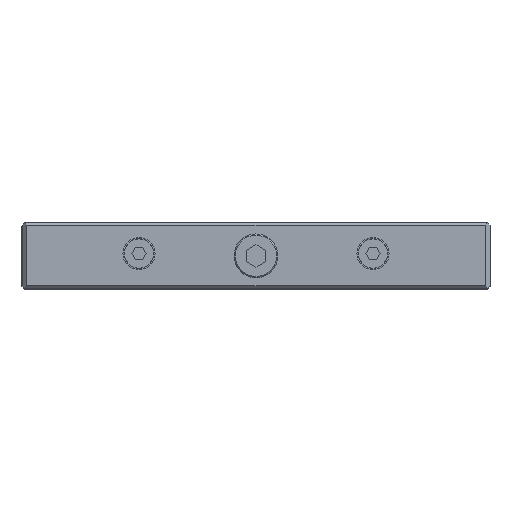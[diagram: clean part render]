
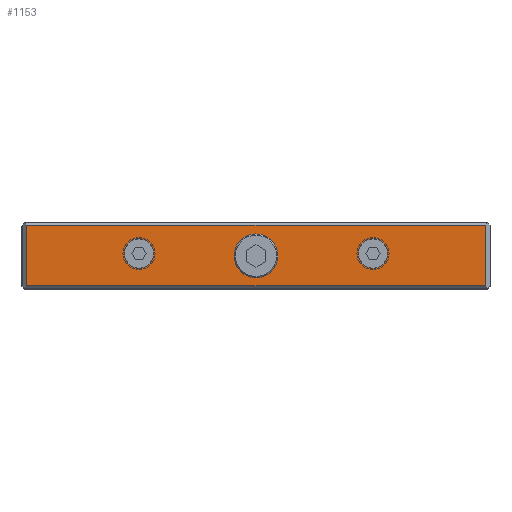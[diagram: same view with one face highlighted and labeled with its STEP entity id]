
A CAD part, top view. The second image highlights one B-rep face of the part: STEP entity #1153.
In plain terms, the highlighted planar face has unit normal (0, 0, 1).
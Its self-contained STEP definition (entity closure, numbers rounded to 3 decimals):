
#98 = EDGE_LOOP ( 'NONE', ( #3366, #3050 ) ) ;
#136 = EDGE_LOOP ( 'NONE', ( #3068, #3151, #3010, #3218 ) ) ;
#271 = EDGE_LOOP ( 'NONE', ( #3167, #2909 ) ) ;
#285 = EDGE_LOOP ( 'NONE', ( #3289, #3083 ) ) ;
#394 = CARTESIAN_POINT ( 'NONE',  ( 94., 26., 123. ) ) ;
#475 = CARTESIAN_POINT ( 'NONE',  ( -94., 1., 123. ) ) ;
#526 = CARTESIAN_POINT ( 'NONE',  ( -94., 26., 123. ) ) ;
#1153 = ADVANCED_FACE ( 'NONE', ( #5316, #5315, #5321, #5357 ), #5290, .F. ) ;
#1319 = CARTESIAN_POINT ( 'NONE',  ( -42., 14.3, 123. ) ) ;
#1419 = CARTESIAN_POINT ( 'NONE',  ( 54., 14.3, 123. ) ) ;
#1431 = CARTESIAN_POINT ( 'NONE',  ( -9.007, 13.347, 123. ) ) ;
#1465 = CARTESIAN_POINT ( 'NONE',  ( -54., 14.3, 123. ) ) ;
#1466 = CARTESIAN_POINT ( 'NONE',  ( 42., 14.3, 123. ) ) ;
#1494 = CARTESIAN_POINT ( 'NONE',  ( 8.993, 13.347, 123. ) ) ;
#2068 = CARTESIAN_POINT ( 'NONE',  ( 94., 1., 123. ) ) ;
#2108 = EDGE_CURVE ( 'NONE', #2758, #2885, #2548, .T. ) ;
#2114 = EDGE_CURVE ( 'NONE', #2709, #2613, #2561, .T. ) ;
#2416 = AXIS2_PLACEMENT_3D ( 'NONE', #5292, #5439, #5291 ) ;
#2546 = AXIS2_PLACEMENT_3D ( 'NONE', #7099, #7119, #7140 ) ;
#2548 = CIRCLE ( 'NONE', #2546, 9. ) ;
#2561 = CIRCLE ( 'NONE', #2563, 6. ) ;
#2563 = AXIS2_PLACEMENT_3D ( 'NONE', #7055, #7054, #7251 ) ;
#2613 = VERTEX_POINT ( 'NONE', #1419 ) ;
#2635 = VERTEX_POINT ( 'NONE', #1319 ) ;
#2709 = VERTEX_POINT ( 'NONE', #1466 ) ;
#2758 = VERTEX_POINT ( 'NONE', #1431 ) ;
#2881 = VERTEX_POINT ( 'NONE', #1465 ) ;
#2885 = VERTEX_POINT ( 'NONE', #1494 ) ;
#2909 = ORIENTED_EDGE ( 'NONE', *, *, #2108, .F. ) ;
#3010 = ORIENTED_EDGE ( 'NONE', *, *, #6699, .T. ) ;
#3050 = ORIENTED_EDGE ( 'NONE', *, *, #2114, .F. ) ;
#3068 = ORIENTED_EDGE ( 'NONE', *, *, #6773, .T. ) ;
#3083 = ORIENTED_EDGE ( 'NONE', *, *, #5092, .F. ) ;
#3151 = ORIENTED_EDGE ( 'NONE', *, *, #5190, .T. ) ;
#3167 = ORIENTED_EDGE ( 'NONE', *, *, #5191, .F. ) ;
#3218 = ORIENTED_EDGE ( 'NONE', *, *, #6701, .T. ) ;
#3289 = ORIENTED_EDGE ( 'NONE', *, *, #6789, .F. ) ;
#3366 = ORIENTED_EDGE ( 'NONE', *, *, #6854, .F. ) ;
#3540 = VERTEX_POINT ( 'NONE', #2068 ) ;
#3558 = VERTEX_POINT ( 'NONE', #526 ) ;
#3572 = VERTEX_POINT ( 'NONE', #475 ) ;
#3581 = VERTEX_POINT ( 'NONE', #394 ) ;
#4226 = CIRCLE ( 'NONE', #4229, 6. ) ;
#4229 = AXIS2_PLACEMENT_3D ( 'NONE', #8063, #8064, #8065 ) ;
#4414 = CIRCLE ( 'NONE', #4431, 9. ) ;
#4428 = VECTOR ( 'NONE', #5757, 1000. ) ;
#4431 = AXIS2_PLACEMENT_3D ( 'NONE', #5760, #5761, #5762 ) ;
#4473 = VECTOR ( 'NONE', #5916, 1000. ) ;
#4475 = VECTOR ( 'NONE', #5911, 1000. ) ;
#4491 = AXIS2_PLACEMENT_3D ( 'NONE', #6520, #6521, #6522 ) ;
#5092 = EDGE_CURVE ( 'NONE', #2881, #2635, #4226, .T. ) ;
#5190 = EDGE_CURVE ( 'NONE', #3572, #3540, #5754, .T. ) ;
#5191 = EDGE_CURVE ( 'NONE', #2885, #2758, #4414, .T. ) ;
#5290 = PLANE ( 'NONE',  #2416 ) ;
#5291 = DIRECTION ( 'NONE',  ( -1., 0., 0. ) ) ;
#5292 = CARTESIAN_POINT ( 'NONE',  ( -96., 27., 123. ) ) ;
#5315 = FACE_BOUND ( 'NONE', #98, .T. ) ;
#5316 = FACE_BOUND ( 'NONE', #271, .T. ) ;
#5321 = FACE_BOUND ( 'NONE', #285, .T. ) ;
#5357 = FACE_OUTER_BOUND ( 'NONE', #136, .T. ) ;
#5439 = DIRECTION ( 'NONE',  ( 0., 0., -1. ) ) ;
#5754 = LINE ( 'NONE', #5756, #4428 ) ;
#5756 = CARTESIAN_POINT ( 'NONE',  ( -96., 1., 123. ) ) ;
#5757 = DIRECTION ( 'NONE',  ( 1., 0., 0. ) ) ;
#5760 = CARTESIAN_POINT ( 'NONE',  ( -0.007, 13.347, 123. ) ) ;
#5761 = DIRECTION ( 'NONE',  ( 0., 0., 1. ) ) ;
#5762 = DIRECTION ( 'NONE',  ( 1., 0., 0. ) ) ;
#5902 = CARTESIAN_POINT ( 'NONE',  ( 94., 27., 123. ) ) ;
#5903 = LINE ( 'NONE', #5902, #4475 ) ;
#5907 = CARTESIAN_POINT ( 'NONE',  ( -94., 26., 123. ) ) ;
#5911 = DIRECTION ( 'NONE',  ( 0., 1., 0. ) ) ;
#5912 = LINE ( 'NONE', #5907, #4473 ) ;
#5916 = DIRECTION ( 'NONE',  ( -1., 0., 0. ) ) ;
#6224 = LINE ( 'NONE', #6225, #7335 ) ;
#6225 = CARTESIAN_POINT ( 'NONE',  ( -94., 27., 123. ) ) ;
#6226 = DIRECTION ( 'NONE',  ( 0., -1., 0. ) ) ;
#6290 = CARTESIAN_POINT ( 'NONE',  ( -48., 14.3, 123. ) ) ;
#6291 = DIRECTION ( 'NONE',  ( 0., 0., 1. ) ) ;
#6292 = DIRECTION ( 'NONE',  ( 1., 0., 0. ) ) ;
#6520 = CARTESIAN_POINT ( 'NONE',  ( 48., 14.3, 123. ) ) ;
#6521 = DIRECTION ( 'NONE',  ( 0., 0., 1. ) ) ;
#6522 = DIRECTION ( 'NONE',  ( 1., 0., 0. ) ) ;
#6699 = EDGE_CURVE ( 'NONE', #3540, #3581, #5903, .T. ) ;
#6701 = EDGE_CURVE ( 'NONE', #3581, #3558, #5912, .T. ) ;
#6773 = EDGE_CURVE ( 'NONE', #3558, #3572, #6224, .T. ) ;
#6789 = EDGE_CURVE ( 'NONE', #2635, #2881, #7355, .T. ) ;
#6854 = EDGE_CURVE ( 'NONE', #2613, #2709, #7401, .T. ) ;
#7054 = DIRECTION ( 'NONE',  ( 0., 0., 1. ) ) ;
#7055 = CARTESIAN_POINT ( 'NONE',  ( 48., 14.3, 123. ) ) ;
#7099 = CARTESIAN_POINT ( 'NONE',  ( -0.007, 13.347, 123. ) ) ;
#7119 = DIRECTION ( 'NONE',  ( 0., 0., 1. ) ) ;
#7140 = DIRECTION ( 'NONE',  ( 1., 0., 0. ) ) ;
#7251 = DIRECTION ( 'NONE',  ( 1., 0., 0. ) ) ;
#7335 = VECTOR ( 'NONE', #6226, 1000. ) ;
#7355 = CIRCLE ( 'NONE', #7358, 6. ) ;
#7358 = AXIS2_PLACEMENT_3D ( 'NONE', #6290, #6291, #6292 ) ;
#7401 = CIRCLE ( 'NONE', #4491, 6. ) ;
#8063 = CARTESIAN_POINT ( 'NONE',  ( -48., 14.3, 123. ) ) ;
#8064 = DIRECTION ( 'NONE',  ( 0., 0., 1. ) ) ;
#8065 = DIRECTION ( 'NONE',  ( 1., 0., 0. ) ) ;
